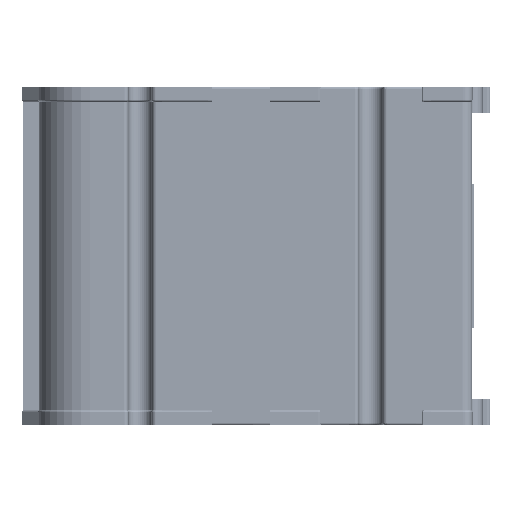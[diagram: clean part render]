
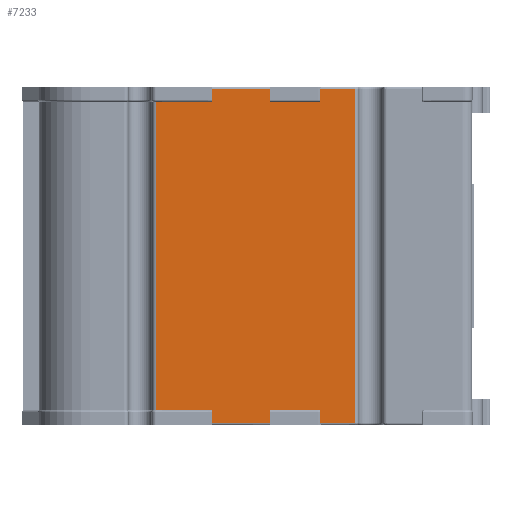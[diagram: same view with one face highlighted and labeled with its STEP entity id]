
A CAD part, left-side view. The second image highlights one B-rep face of the part: STEP entity #7233.
In plain terms, the highlighted planar face has unit normal (-1, 0, 0).
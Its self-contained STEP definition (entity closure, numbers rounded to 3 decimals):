
#7233=ADVANCED_FACE('',(#11464),#9807,.F.);
#9807=PLANE('',#52224);
#11464=FACE_OUTER_BOUND('',#14202,.T.);
#14202=EDGE_LOOP('',(#22109,#22110,#22111,#22112,#22113,#22114,#22115,#22116,
#22117,#22118,#22119,#22120,#22121,#22122,#22123,#22124));
#22109=ORIENTED_EDGE('',*,*,#38867,.F.);
#22110=ORIENTED_EDGE('',*,*,#38868,.T.);
#22111=ORIENTED_EDGE('',*,*,#38869,.F.);
#22112=ORIENTED_EDGE('',*,*,#38870,.T.);
#22113=ORIENTED_EDGE('',*,*,#38871,.F.);
#22114=ORIENTED_EDGE('',*,*,#38872,.T.);
#22115=ORIENTED_EDGE('',*,*,#38873,.T.);
#22116=ORIENTED_EDGE('',*,*,#38874,.T.);
#22117=ORIENTED_EDGE('',*,*,#38875,.F.);
#22118=ORIENTED_EDGE('',*,*,#38876,.T.);
#22119=ORIENTED_EDGE('',*,*,#38877,.F.);
#22120=ORIENTED_EDGE('',*,*,#38878,.T.);
#22121=ORIENTED_EDGE('',*,*,#38879,.F.);
#22122=ORIENTED_EDGE('',*,*,#38880,.T.);
#22123=ORIENTED_EDGE('',*,*,#38881,.T.);
#22124=ORIENTED_EDGE('',*,*,#38882,.T.);
#32995=VERTEX_POINT('',#74381);
#32996=VERTEX_POINT('',#74382);
#32997=VERTEX_POINT('',#74384);
#32998=VERTEX_POINT('',#74386);
#32999=VERTEX_POINT('',#74388);
#33000=VERTEX_POINT('',#74390);
#33001=VERTEX_POINT('',#74392);
#33002=VERTEX_POINT('',#74394);
#33003=VERTEX_POINT('',#74396);
#33004=VERTEX_POINT('',#74398);
#33005=VERTEX_POINT('',#74400);
#33006=VERTEX_POINT('',#74402);
#33007=VERTEX_POINT('',#74404);
#33008=VERTEX_POINT('',#74406);
#33009=VERTEX_POINT('',#74408);
#33010=VERTEX_POINT('',#74410);
#38867=EDGE_CURVE('',#32995,#32996,#45721,.T.);
#38868=EDGE_CURVE('',#32995,#32997,#45722,.T.);
#38869=EDGE_CURVE('',#32998,#32997,#45723,.T.);
#38870=EDGE_CURVE('',#32998,#32999,#45724,.T.);
#38871=EDGE_CURVE('',#33000,#32999,#45725,.T.);
#38872=EDGE_CURVE('',#33000,#33001,#45726,.T.);
#38873=EDGE_CURVE('',#33001,#33002,#45727,.T.);
#38874=EDGE_CURVE('',#33002,#33003,#45728,.T.);
#38875=EDGE_CURVE('',#33004,#33003,#45729,.T.);
#38876=EDGE_CURVE('',#33004,#33005,#45730,.T.);
#38877=EDGE_CURVE('',#33006,#33005,#45731,.T.);
#38878=EDGE_CURVE('',#33006,#33007,#45732,.T.);
#38879=EDGE_CURVE('',#33008,#33007,#45733,.T.);
#38880=EDGE_CURVE('',#33008,#33009,#45734,.T.);
#38881=EDGE_CURVE('',#33009,#33010,#45735,.T.);
#38882=EDGE_CURVE('',#33010,#32996,#45736,.T.);
#45721=LINE('',#74380,#49333);
#45722=LINE('',#74383,#49334);
#45723=LINE('',#74385,#49335);
#45724=LINE('',#74387,#49336);
#45725=LINE('',#74389,#49337);
#45726=LINE('',#74391,#49338);
#45727=LINE('',#74393,#49339);
#45728=LINE('',#74395,#49340);
#45729=LINE('',#74397,#49341);
#45730=LINE('',#74399,#49342);
#45731=LINE('',#74401,#49343);
#45732=LINE('',#74403,#49344);
#45733=LINE('',#74405,#49345);
#45734=LINE('',#74407,#49346);
#45735=LINE('',#74409,#49347);
#45736=LINE('',#74411,#49348);
#49333=VECTOR('',#59642,1.);
#49334=VECTOR('',#59643,1.);
#49335=VECTOR('',#59644,1.);
#49336=VECTOR('',#59645,1.);
#49337=VECTOR('',#59646,1.);
#49338=VECTOR('',#59647,1.);
#49339=VECTOR('',#59648,1.);
#49340=VECTOR('',#59649,1.);
#49341=VECTOR('',#59650,1.);
#49342=VECTOR('',#59651,1.);
#49343=VECTOR('',#59652,1.);
#49344=VECTOR('',#59653,1.);
#49345=VECTOR('',#59654,1.);
#49346=VECTOR('',#59655,1.);
#49347=VECTOR('',#59656,1.);
#49348=VECTOR('',#59657,1.);
#52224=AXIS2_PLACEMENT_3D('',#74412,#59658,#59659);
#59642=DIRECTION('',(0.,0.,1.));
#59643=DIRECTION('',(0.,-1.,0.));
#59644=DIRECTION('',(0.,0.,-1.));
#59645=DIRECTION('',(0.,-1.,0.));
#59646=DIRECTION('',(0.,0.,1.));
#59647=DIRECTION('',(0.,-1.,0.));
#59648=DIRECTION('',(0.,0.,1.));
#59649=DIRECTION('',(0.,1.,0.));
#59650=DIRECTION('',(0.,0.,1.));
#59651=DIRECTION('',(0.,1.,0.));
#59652=DIRECTION('',(0.,0.,-1.));
#59653=DIRECTION('',(0.,1.,0.));
#59654=DIRECTION('',(0.,0.,1.));
#59655=DIRECTION('',(0.,1.,0.));
#59656=DIRECTION('',(0.,0.,-1.));
#59657=DIRECTION('',(0.,-1.,0.));
#59658=DIRECTION('',(1.,0.,0.));
#59659=DIRECTION('',(0.,1.,0.));
#74380=CARTESIAN_POINT('',(4.487,623.534,-68.5));
#74381=CARTESIAN_POINT('',(4.487,623.534,-71.));
#74382=CARTESIAN_POINT('',(4.487,623.534,-68.5));
#74383=CARTESIAN_POINT('',(4.487,596.684,-71.));
#74384=CARTESIAN_POINT('',(4.487,612.534,-71.));
#74385=CARTESIAN_POINT('',(4.487,612.534,10.1));
#74386=CARTESIAN_POINT('',(4.487,612.534,-68.5));
#74387=CARTESIAN_POINT('',(4.487,596.684,-68.5));
#74388=CARTESIAN_POINT('',(4.487,602.934,-68.5));
#74389=CARTESIAN_POINT('',(4.487,602.934,-68.5));
#74390=CARTESIAN_POINT('',(4.487,602.934,-71.));
#74391=CARTESIAN_POINT('',(4.487,596.684,-71.));
#74392=CARTESIAN_POINT('',(4.487,596.384,-71.));
#74393=CARTESIAN_POINT('',(4.487,596.384,-68.5));
#74394=CARTESIAN_POINT('',(4.487,596.384,-7.4));
#74395=CARTESIAN_POINT('',(4.487,602.934,-7.4));
#74396=CARTESIAN_POINT('',(4.487,602.934,-7.4));
#74397=CARTESIAN_POINT('',(4.487,602.934,-68.5));
#74398=CARTESIAN_POINT('',(4.487,602.934,-9.9));
#74399=CARTESIAN_POINT('',(4.487,596.684,-9.9));
#74400=CARTESIAN_POINT('',(4.487,612.534,-9.9));
#74401=CARTESIAN_POINT('',(4.487,612.534,-68.5));
#74402=CARTESIAN_POINT('',(4.487,612.534,-7.4));
#74403=CARTESIAN_POINT('',(4.487,623.534,-7.4));
#74404=CARTESIAN_POINT('',(4.487,623.534,-7.4));
#74405=CARTESIAN_POINT('',(4.487,623.534,-68.5));
#74406=CARTESIAN_POINT('',(4.487,623.534,-9.9));
#74407=CARTESIAN_POINT('',(4.487,596.684,-9.9));
#74408=CARTESIAN_POINT('',(4.487,634.184,-9.9));
#74409=CARTESIAN_POINT('',(4.487,634.184,-68.5));
#74410=CARTESIAN_POINT('',(4.487,634.184,-68.5));
#74411=CARTESIAN_POINT('',(4.487,596.684,-68.5));
#74412=CARTESIAN_POINT('',(4.487,596.684,-68.5));
